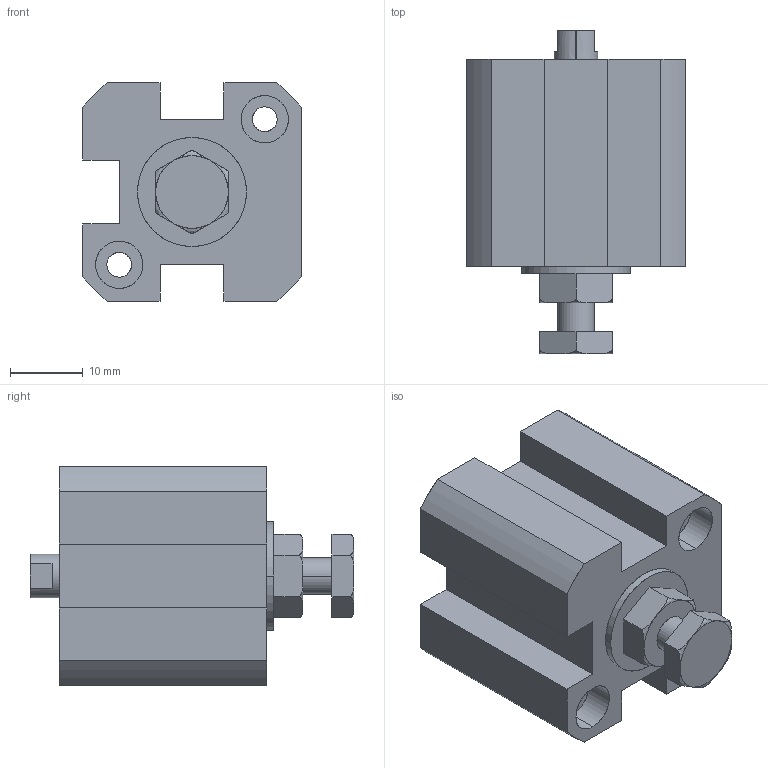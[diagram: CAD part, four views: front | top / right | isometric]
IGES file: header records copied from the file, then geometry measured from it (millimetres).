
Start section: SolidWorks IGES file using analytic representation for surfaces
Global section: file name: C:\Users\Toshiba\Desktop\XCA2-16-10.IGS; native system: SolidWorks 2014; preprocessor: SolidWorks 2014; author: Toshiba; date: 160524.102907; units: millimetre
Bounding box: 30 x 44.5 x 30 mm (x, y, z)
Surface area: 7755.8 mm2 (no closed solid volume)
Topology: 0 solids, 0 shells, 110 faces, 1783 edges, 1777 vertices
Faces by surface type: bspline 61, revolution 49
